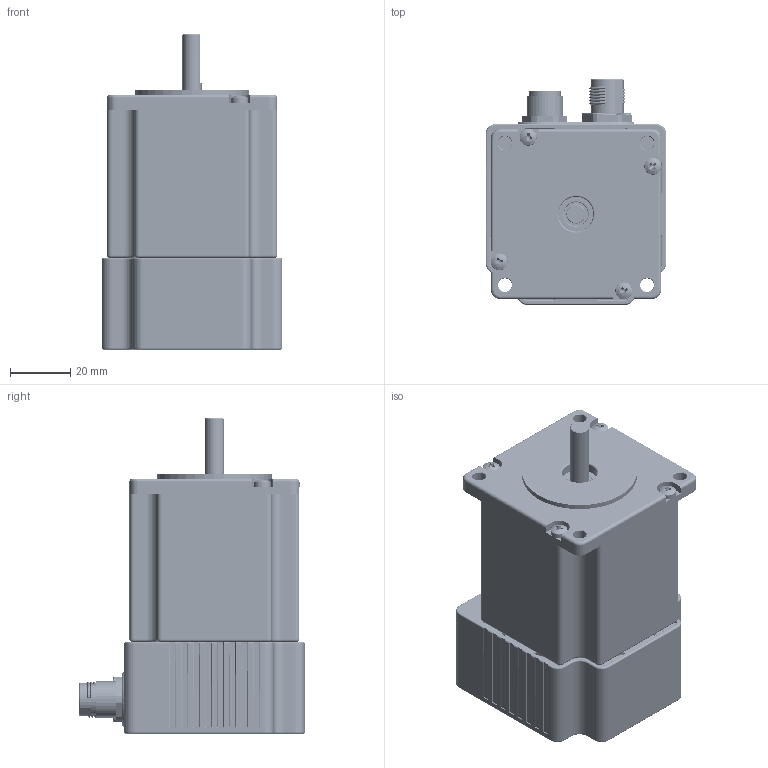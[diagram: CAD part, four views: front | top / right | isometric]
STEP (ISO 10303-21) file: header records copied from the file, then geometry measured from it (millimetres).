
FILE_DESCRIPTION (( 'STEP AP214' ), '1' );
FILE_NAME ('M57SH56-TO0512L05C.STEP', '2025-03-22T10:54:29', ( '' ), ( '' ), 'SwSTEP 2.0', 'SolidWorks 2019', '' );
FILE_SCHEMA (( 'AUTOMOTIVE_DESIGN' ));
Length unit declared in the file: millimetre
Products named in the file (1): M57SH56-TO0512L05C
Bounding box: 60 x 74.9 x 104.51 mm (x, y, z)
Volume: 105986.5 mm3; surface area: 85293.9 mm2
Topology: 19 solids, 19 shells, 5127 faces, 13205 edges, 8238 vertices
Faces by surface type: plane 1676, cylinder 1592, bspline 620, torus 617, cone 561, sphere 61
Entity records: 201955 total; most frequent: CARTESIAN_POINT 73344, ORIENTED_EDGE 26236, DIRECTION 25097, EDGE_CURVE 13118, AXIS2_PLACEMENT_3D 9580, VERTEX_POINT 8238, VECTOR 5937, LINE 5937
